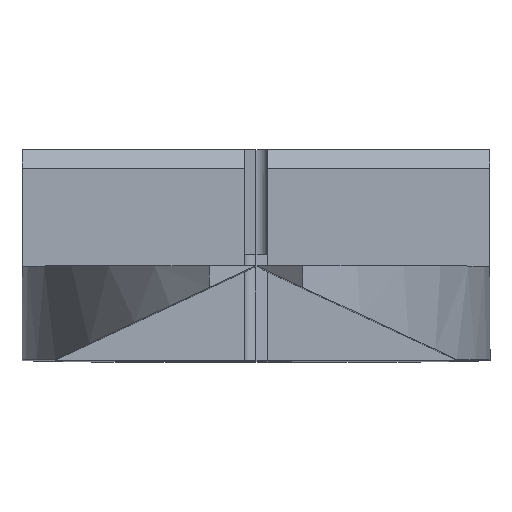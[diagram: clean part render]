
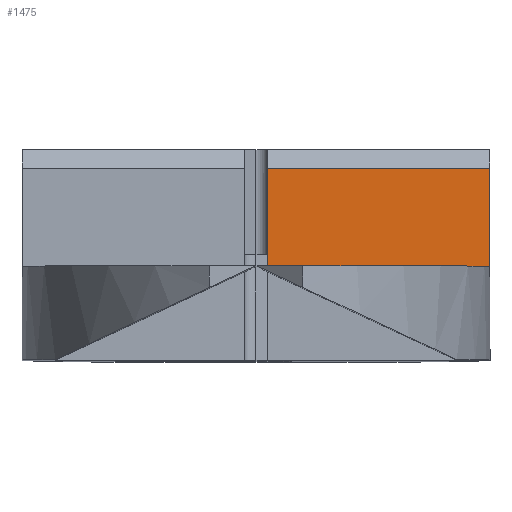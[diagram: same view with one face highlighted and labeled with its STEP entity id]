
A CAD part, top view. The second image highlights one B-rep face of the part: STEP entity #1475.
In plain terms, the highlighted planar face has unit normal (0, 0, 1).
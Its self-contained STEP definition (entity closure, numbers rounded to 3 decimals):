
#157 = VERTEX_POINT ( 'NONE', #533 ) ;
#245 = CARTESIAN_POINT ( 'NONE',  ( 0.5, 4., 13. ) ) ;
#288 = PLANE ( 'NONE',  #1052 ) ;
#335 = LINE ( 'NONE', #1273, #2232 ) ;
#522 = VERTEX_POINT ( 'NONE', #2701 ) ;
#533 = CARTESIAN_POINT ( 'NONE',  ( 10., 4., 13. ) ) ;
#660 = CARTESIAN_POINT ( 'NONE',  ( 10., 4.5, 13. ) ) ;
#662 = LINE ( 'NONE', #668, #1910 ) ;
#668 = CARTESIAN_POINT ( 'NONE',  ( 5., 4., 13. ) ) ;
#773 = DIRECTION ( 'NONE',  ( 0., 0., 1. ) ) ;
#862 = LINE ( 'NONE', #660, #2107 ) ;
#919 = DIRECTION ( 'NONE',  ( -1., 0., 0. ) ) ;
#1052 = AXIS2_PLACEMENT_3D ( 'NONE', #245, #773, #1767 ) ;
#1059 = ORIENTED_EDGE ( 'NONE', *, *, #1195, .F. ) ;
#1102 = VERTEX_POINT ( 'NONE', #2513 ) ;
#1195 = EDGE_CURVE ( 'NONE', #2746, #1102, #335, .T. ) ;
#1250 = EDGE_CURVE ( 'NONE', #2746, #522, #1409, .T. ) ;
#1273 = CARTESIAN_POINT ( 'NONE',  ( 5.25, 8.2, 13. ) ) ;
#1341 = DIRECTION ( 'NONE',  ( 1., 0., 0. ) ) ;
#1409 = LINE ( 'NONE', #2511, #2079 ) ;
#1475 = ADVANCED_FACE ( 'NONE', ( #2771 ), #288, .T. ) ;
#1543 = ORIENTED_EDGE ( 'NONE', *, *, #2416, .F. ) ;
#1661 = ORIENTED_EDGE ( 'NONE', *, *, #3160, .F. ) ;
#1728 = EDGE_LOOP ( 'NONE', ( #1543, #1059, #2720, #1661 ) ) ;
#1767 = DIRECTION ( 'NONE',  ( 1., 0., 0. ) ) ;
#1817 = CARTESIAN_POINT ( 'NONE',  ( 0.5, 8.2, 13. ) ) ;
#1910 = VECTOR ( 'NONE', #919, 1000. ) ;
#2079 = VECTOR ( 'NONE', #2833, 1000. ) ;
#2107 = VECTOR ( 'NONE', #2150, 1000. ) ;
#2150 = DIRECTION ( 'NONE',  ( 0., -1., 0. ) ) ;
#2232 = VECTOR ( 'NONE', #1341, 1000. ) ;
#2416 = EDGE_CURVE ( 'NONE', #1102, #157, #862, .T. ) ;
#2511 = CARTESIAN_POINT ( 'NONE',  ( 0.5, 6.1, 13. ) ) ;
#2513 = CARTESIAN_POINT ( 'NONE',  ( 10., 8.2, 13. ) ) ;
#2701 = CARTESIAN_POINT ( 'NONE',  ( 0.5, 4., 13. ) ) ;
#2720 = ORIENTED_EDGE ( 'NONE', *, *, #1250, .T. ) ;
#2746 = VERTEX_POINT ( 'NONE', #1817 ) ;
#2771 = FACE_OUTER_BOUND ( 'NONE', #1728, .T. ) ;
#2833 = DIRECTION ( 'NONE',  ( 0., -1., 0. ) ) ;
#3160 = EDGE_CURVE ( 'NONE', #157, #522, #662, .T. ) ;
